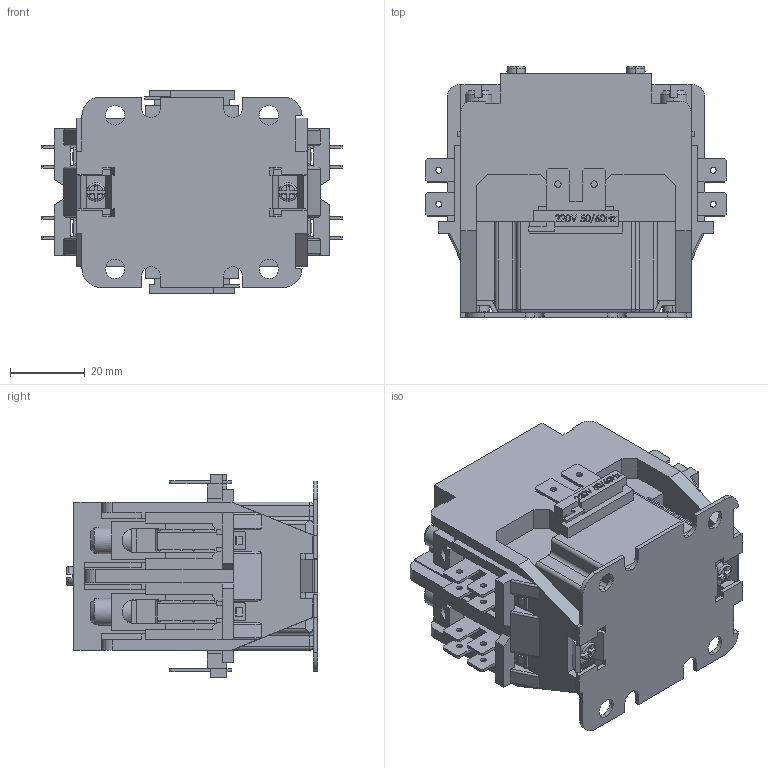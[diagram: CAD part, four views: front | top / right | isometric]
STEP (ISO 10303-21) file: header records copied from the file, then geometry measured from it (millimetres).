
FILE_DESCRIPTION (( 'STEP AP203' ), '1' );
FILE_NAME ('DPA2040.STEP', '2018-02-07T13:38:18', ( '' ), ( '' ), 'SwSTEP 2.0', 'SolidWorks 2012', '' );
FILE_SCHEMA (( 'CONFIG_CONTROL_DESIGN' ));
Length unit declared in the file: millimetre
Products named in the file (1): DPA2040
Bounding box: 80.7 x 67.3 x 54.6 mm (x, y, z)
Volume: 139241.5 mm3; surface area: 34601.5 mm2
Topology: 1 solids, 1 shells, 967 faces, 2762 edges, 1802 vertices
Faces by surface type: plane 725, cylinder 158, bspline 56, torus 16, cone 8, sphere 4
Entity records: 35373 total; most frequent: CARTESIAN_POINT 10308, ORIENTED_EDGE 5516, DIRECTION 4698, EDGE_CURVE 2758, VECTOR 2218, LINE 2218, VERTEX_POINT 1802, AXIS2_PLACEMENT_3D 1240
